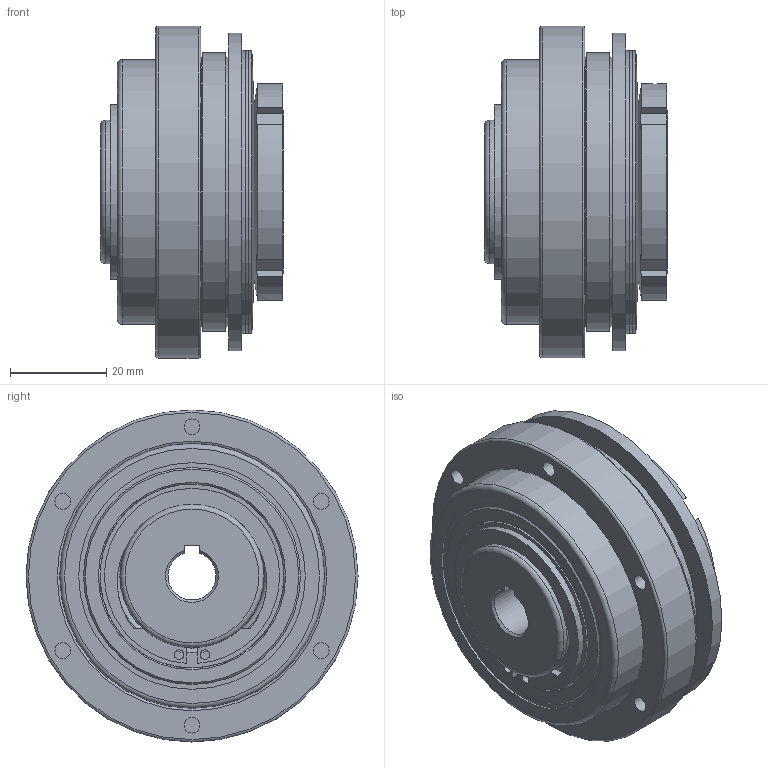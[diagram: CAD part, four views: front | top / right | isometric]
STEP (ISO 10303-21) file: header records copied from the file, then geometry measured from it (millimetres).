
FILE_DESCRIPTION( ( 'Unknown' ), '1' );
FILE_NAME( 'F:/JAKOB-STEP+IGES-Dateien/STEP-Dateien/SKW/SKW 45.stp', 'Unknown', ( 'Unknown' ), ( 'Unknown' ), 'PSStep 10.1', 'Unknown', ' ' );
FILE_SCHEMA( ( 'AUTOMOTIVE_DESIGN { 1 0 10303 214 1 1 1 1 }' ) );
Length unit declared in the file: millimetre
Products named in the file (1): 27920751
Bounding box: 38 x 69 x 69 mm (x, y, z)
Volume: 85666 mm3; surface area: 29112.4 mm2
Topology: 1 solids, 2 shells, 169 faces, 514 edges, 337 vertices
Faces by surface type: plane 64, cylinder 38, torus 36, cone 19, sphere 12
Full cylindrical faces by diameter (mm): 2 x2, 3.3 x8, 28.6 x1, 29.8 x1, 30 x2, 35 x1, 35.2 x1, 38.2 x2, 38.893 x1, 39.293 x1, 47.1 x3, 55 x2, 55.8 x2, 58 x1, 66 x1, 69 x1
Entity records: 7574 total; most frequent: CARTESIAN_POINT 2239, DIRECTION 800, ORIENTED_EDGE 770, EDGE_CURVE 385, AXIS2_PLACEMENT_3D 356, VERTEX_POINT 279, EDGE_LOOP 278, FACE_OUTER_BOUND 199
